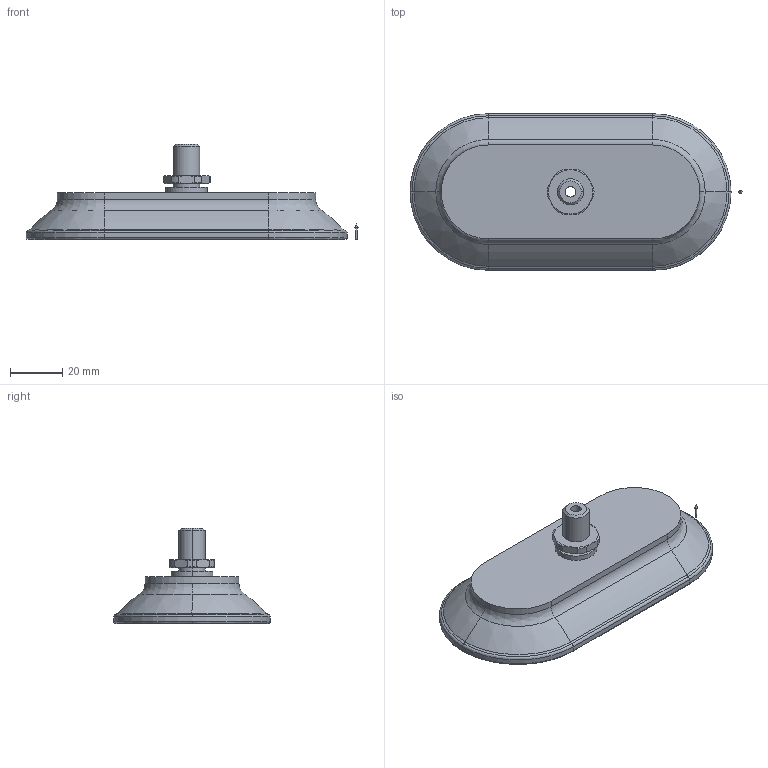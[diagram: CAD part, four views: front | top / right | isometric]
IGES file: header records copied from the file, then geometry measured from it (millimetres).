
Start section: 3D InterOp IGES (v. 2018 1.0.2), Spatial Corp. Copyright (c) 1999-2017.
Global section: file name: schmalz_10_01_05_00335_b3mbdcmf6obv2rcsnojnscvv0.igs; native system: Spatial Corp.; preprocessor: 3D InterOp ACIS/IGES; author: TraceParts; organization: TraceParts S.A.; date: 20181030.033229; units: millimetre
Bounding box: 127.2 x 60 x 36.5 mm (x, y, z)
Surface area: 18355.7 mm2 (no closed solid volume)
Topology: 0 solids, 0 shells, 118 faces, 522 edges, 520 vertices
Faces by surface type: revolution 90, extrusion 28
